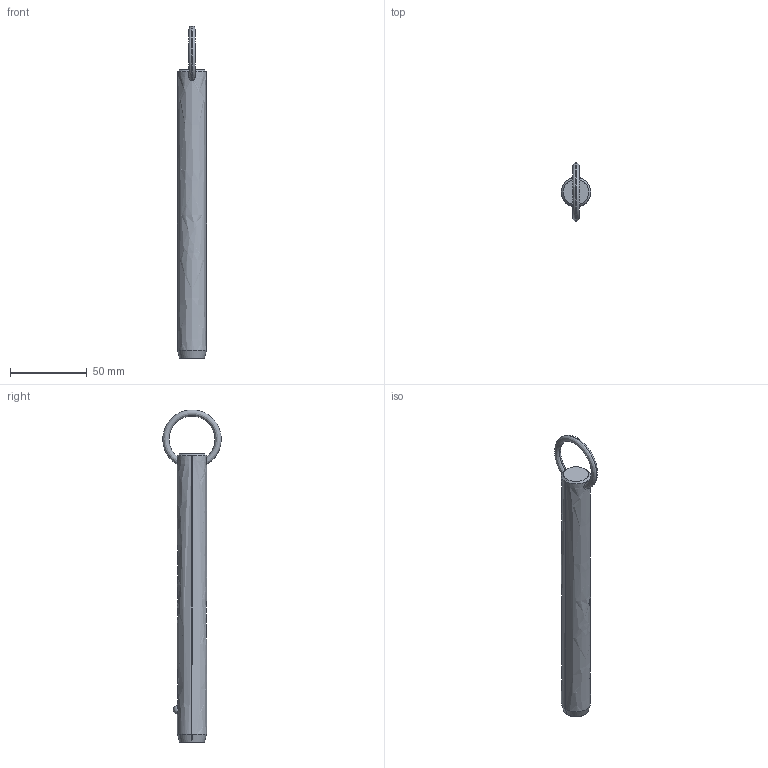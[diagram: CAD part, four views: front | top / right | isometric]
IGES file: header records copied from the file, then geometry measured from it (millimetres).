
Start section: SolidWorks IGES file using analytic representation for surfaces
Global section: file name: C:\Users\liam_\OneDrive\Documents\WORK\Work for WixRoyd\Job Files\J-00019 - Matt Davis CAD Checking\04. CAD Drawings\automotion20190605\P1250.2_v2\P1250.2_v2_20190729_IGES\P1250.075-610.igs; native system: SolidWorks 2017; preprocessor: SolidWorks 2017; author: liam_; date: 190729.235904; units: millimetre
Bounding box: 19 x 38 x 216.68 mm (x, y, z)
Surface area: 12760.5 mm2 (no closed solid volume)
Topology: 0 solids, 0 shells, 12 faces, 294 edges, 292 vertices
Faces by surface type: revolution 8, bspline 4
